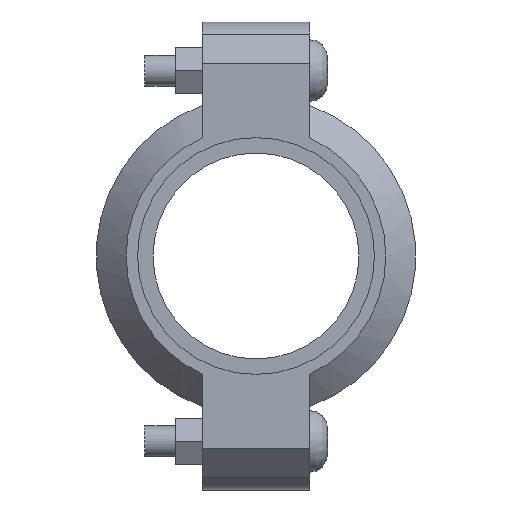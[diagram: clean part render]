
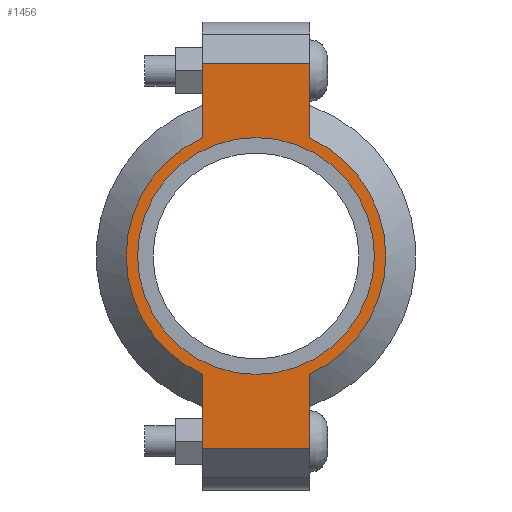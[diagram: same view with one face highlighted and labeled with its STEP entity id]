
A CAD part, left-side view. The second image highlights one B-rep face of the part: STEP entity #1456.
In plain terms, the highlighted planar face has unit normal (-1, 0, 0) as drawn and (0, 0, 1) by its records, which use the part's own axes.
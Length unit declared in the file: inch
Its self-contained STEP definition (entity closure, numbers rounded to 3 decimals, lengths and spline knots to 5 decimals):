
#136=LINE('',#2525,#227);
#144=LINE('',#2561,#235);
#151=LINE('',#2582,#242);
#160=LINE('',#2614,#251);
#161=LINE('',#2618,#252);
#162=LINE('',#2620,#253);
#227=VECTOR('',#2047,0.3937);
#235=VECTOR('',#2063,0.3937);
#242=VECTOR('',#2082,0.3937);
#251=VECTOR('',#2107,0.3937);
#252=VECTOR('',#2112,0.3937);
#253=VECTOR('',#2113,0.3937);
#305=FACE_BOUND('',#465,.T.);
#369=FACE_OUTER_BOUND('',#464,.T.);
#464=EDGE_LOOP('',(#1191,#1192,#1193,#1194,#1195,#1196,#1197,#1198));
#465=EDGE_LOOP('',(#1199));
#562=CIRCLE('',#1717,1.575);
#563=CIRCLE('',#1718,1.575);
#564=CIRCLE('',#1719,1.4375);
#667=VERTEX_POINT('',#2522);
#668=VERTEX_POINT('',#2524);
#679=VERTEX_POINT('',#2556);
#680=VERTEX_POINT('',#2560);
#687=VERTEX_POINT('',#2579);
#688=VERTEX_POINT('',#2581);
#698=VERTEX_POINT('',#2617);
#699=VERTEX_POINT('',#2619);
#700=VERTEX_POINT('',#2622);
#831=EDGE_CURVE('',#668,#667,#136,.T.);
#845=EDGE_CURVE('',#680,#679,#144,.T.);
#855=EDGE_CURVE('',#688,#687,#151,.T.);
#870=EDGE_CURVE('',#680,#667,#160,.T.);
#871=EDGE_CURVE('',#679,#688,#562,.T.);
#872=EDGE_CURVE('',#698,#687,#161,.T.);
#873=EDGE_CURVE('',#698,#699,#162,.T.);
#874=EDGE_CURVE('',#699,#668,#563,.T.);
#875=EDGE_CURVE('',#700,#700,#564,.T.);
#1191=ORIENTED_EDGE('',*,*,#870,.F.);
#1192=ORIENTED_EDGE('',*,*,#845,.T.);
#1193=ORIENTED_EDGE('',*,*,#871,.T.);
#1194=ORIENTED_EDGE('',*,*,#855,.T.);
#1195=ORIENTED_EDGE('',*,*,#872,.F.);
#1196=ORIENTED_EDGE('',*,*,#873,.T.);
#1197=ORIENTED_EDGE('',*,*,#874,.T.);
#1198=ORIENTED_EDGE('',*,*,#831,.T.);
#1199=ORIENTED_EDGE('',*,*,#875,.T.);
#1310=PLANE('',#1716);
#1456=ADVANCED_FACE('',(#369,#305),#1310,.T.);
#1716=AXIS2_PLACEMENT_3D('',#2615,#2108,#2109);
#1717=AXIS2_PLACEMENT_3D('',#2616,#2110,#2111);
#1718=AXIS2_PLACEMENT_3D('',#2621,#2114,#2115);
#1719=AXIS2_PLACEMENT_3D('',#2623,#2116,#2117);
#2047=DIRECTION('',(1.,0.,0.));
#2063=DIRECTION('',(-1.,0.,0.));
#2082=DIRECTION('',(-1.,0.,0.));
#2107=DIRECTION('',(0.,-1.,0.));
#2108=DIRECTION('center_axis',(0.,0.,1.));
#2109=DIRECTION('ref_axis',(-1.,0.,0.));
#2110=DIRECTION('center_axis',(0.,0.,1.));
#2111=DIRECTION('ref_axis',(1.,0.,0.));
#2112=DIRECTION('',(0.,1.,0.));
#2113=DIRECTION('',(1.,0.,0.));
#2114=DIRECTION('center_axis',(0.,0.,1.));
#2115=DIRECTION('ref_axis',(1.,0.,0.));
#2116=DIRECTION('center_axis',(0.,0.,-1.));
#2117=DIRECTION('ref_axis',(1.,0.,0.));
#2522=CARTESIAN_POINT('',(2.34,-0.65,0.94));
#2524=CARTESIAN_POINT('',(1.43462,-0.65,0.94));
#2525=CARTESIAN_POINT('',(2.84,-0.65,0.94));
#2556=CARTESIAN_POINT('',(1.43462,0.65,0.94));
#2560=CARTESIAN_POINT('',(2.34,0.65,0.94));
#2561=CARTESIAN_POINT('',(-2.84,0.65,0.94));
#2579=CARTESIAN_POINT('',(-2.34,0.65,0.94));
#2581=CARTESIAN_POINT('',(-1.43462,0.65,0.94));
#2582=CARTESIAN_POINT('',(-2.84,0.65,0.94));
#2614=CARTESIAN_POINT('',(2.34,-0.325,0.94));
#2615=CARTESIAN_POINT('Origin',(0.,0.,
0.94));
#2616=CARTESIAN_POINT('Origin',(0.,0.,0.94));
#2617=CARTESIAN_POINT('',(-2.34,-0.65,0.94));
#2618=CARTESIAN_POINT('',(-2.34,0.325,0.94));
#2619=CARTESIAN_POINT('',(-1.43462,-0.65,0.94));
#2620=CARTESIAN_POINT('',(2.84,-0.65,0.94));
#2621=CARTESIAN_POINT('Origin',(0.,0.,0.94));
#2622=CARTESIAN_POINT('',(-1.4375,0.,0.94));
#2623=CARTESIAN_POINT('Origin',(0.,0.,0.94));
